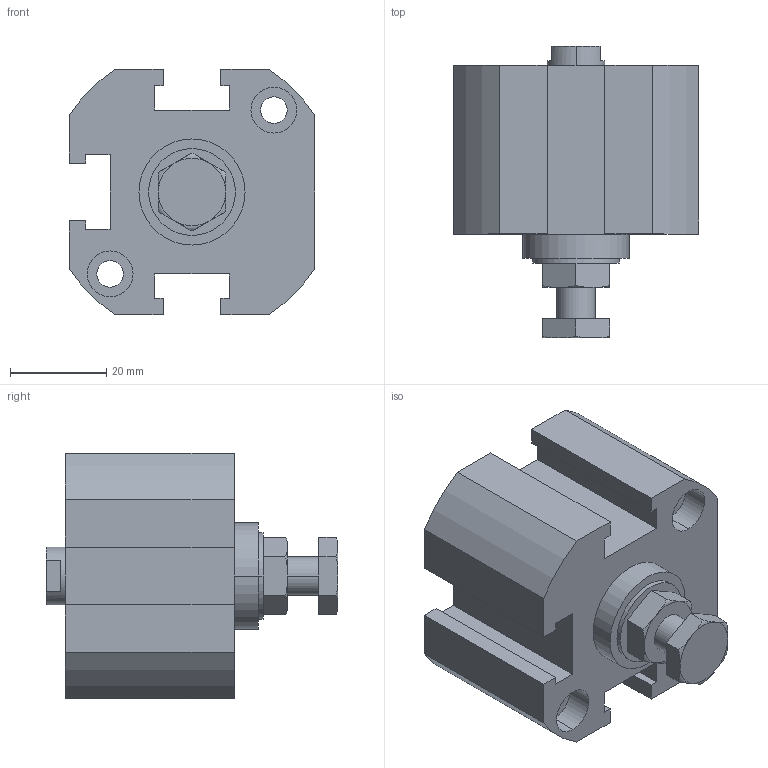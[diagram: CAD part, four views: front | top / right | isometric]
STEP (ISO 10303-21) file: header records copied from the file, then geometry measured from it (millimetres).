
FILE_DESCRIPTION (( 'STEP AP203' ), '1' );
FILE_NAME ('XCA2-32-10.STEP', '2016-05-24T02:31:00', ( '' ), ( '' ), 'SwSTEP 2.0', 'SolidWorks 2014', '' );
FILE_SCHEMA (( 'CONFIG_CONTROL_DESIGN' ));
Length unit declared in the file: millimetre
Products named in the file (3): XCA2-32-10; XC#2-32-10; X#A2-32-H
Assembly tree (2 placements, depth 2):
  XCA2-32-10
    XC#2-32-10
    X#A2-32-H
Bounding box: 51 x 60.5 x 51 mm (x, y, z)
Volume: 72212.6 mm3; surface area: 17765 mm2
Topology: 2 solids, 2 shells, 134 faces, 325 edges, 207 vertices
Faces by surface type: plane 64, cylinder 48, torus 12, cone 10
Entity records: 4416 total; most frequent: CARTESIAN_POINT 929, DIRECTION 693, ORIENTED_EDGE 638, EDGE_CURVE 319, AXIS2_PLACEMENT_3D 259, VERTEX_POINT 207, VECTOR 175, LINE 175
